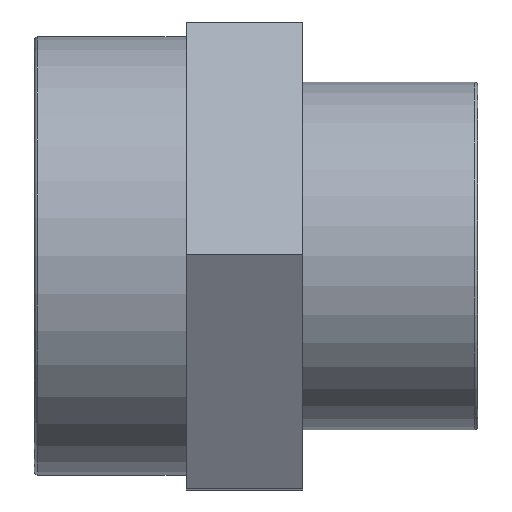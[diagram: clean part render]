
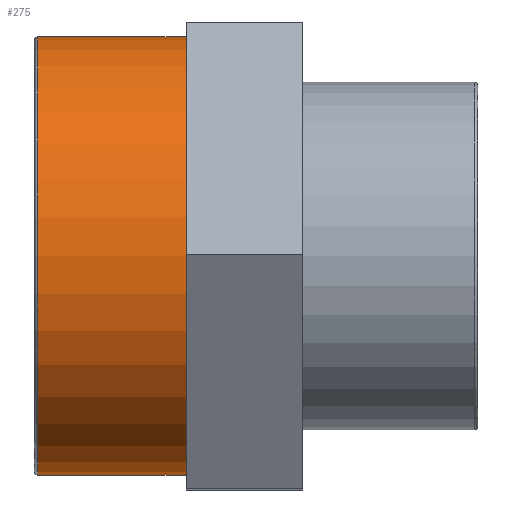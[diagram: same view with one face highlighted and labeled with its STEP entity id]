
A CAD part, top view. The second image highlights one B-rep face of the part: STEP entity #275.
In plain terms, the highlighted cylindrical face has radius 37.592 mm (diameter 75.184 mm), a full revolution.
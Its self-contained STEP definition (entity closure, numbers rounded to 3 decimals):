
#18=CYLINDRICAL_SURFACE('',#307,37.592);
#28=FACE_BOUND('',#92,.T.);
#42=CIRCLE('',#306,37.592);
#43=CIRCLE('',#308,37.592);
#63=FACE_OUTER_BOUND('',#91,.T.);
#91=EDGE_LOOP('',(#231));
#92=EDGE_LOOP('',(#232));
#157=VERTEX_POINT('',#460);
#158=VERTEX_POINT('',#463);
#187=EDGE_CURVE('',#157,#157,#42,.T.);
#188=EDGE_CURVE('',#158,#158,#43,.T.);
#231=ORIENTED_EDGE('',*,*,#188,.T.);
#232=ORIENTED_EDGE('',*,*,#187,.F.);
#275=ADVANCED_FACE('',(#63,#28),#18,.T.);
#306=AXIS2_PLACEMENT_3D('',#461,#382,#383);
#307=AXIS2_PLACEMENT_3D('',#462,#384,#385);
#308=AXIS2_PLACEMENT_3D('',#464,#386,#387);
#382=DIRECTION('center_axis',(-1.,0.,0.));
#383=DIRECTION('ref_axis',(0.,1.,0.));
#384=DIRECTION('center_axis',(-1.,0.,0.));
#385=DIRECTION('ref_axis',(0.,-1.,0.));
#386=DIRECTION('center_axis',(-1.,0.,0.));
#387=DIRECTION('ref_axis',(0.,0.,1.));
#460=CARTESIAN_POINT('',(-37.404,-37.592,0.));
#461=CARTESIAN_POINT('Origin',(-37.404,0.,0.));
#462=CARTESIAN_POINT('Origin',(-25.,0.,0.));
#463=CARTESIAN_POINT('',(-12.,-37.592,0.));
#464=CARTESIAN_POINT('Origin',(-12.,0.,0.));
